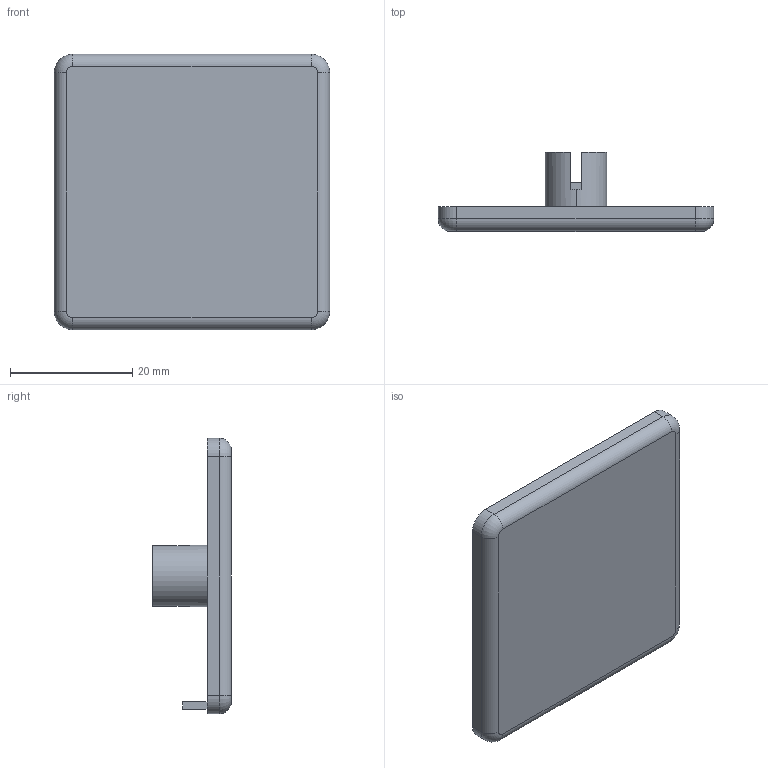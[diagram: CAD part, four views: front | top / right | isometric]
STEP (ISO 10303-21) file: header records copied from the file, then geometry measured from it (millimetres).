
FILE_DESCRIPTION (( 'STEP AP203' ), '1' );
FILE_NAME ('EC45X45.STEP', '2018-03-15T12:38:49', ( '' ), ( '' ), 'SwSTEP 2.0', 'SolidWorks 2013', '' );
FILE_SCHEMA (( 'CONFIG_CONTROL_DESIGN' ));
Length unit declared in the file: millimetre
Products named in the file (1): EC45X45
Bounding box: 45 x 12.9 x 45 mm (x, y, z)
Volume: 6509 mm3; surface area: 5363.1 mm2
Topology: 1 solids, 1 shells, 42 faces, 104 edges, 66 vertices
Faces by surface type: plane 24, cylinder 12, torus 4, cone 2
Entity records: 1323 total; most frequent: DIRECTION 228, CARTESIAN_POINT 213, ORIENTED_EDGE 208, EDGE_CURVE 104, AXIS2_PLACEMENT_3D 81, LINE 66, VERTEX_POINT 66, VECTOR 66
